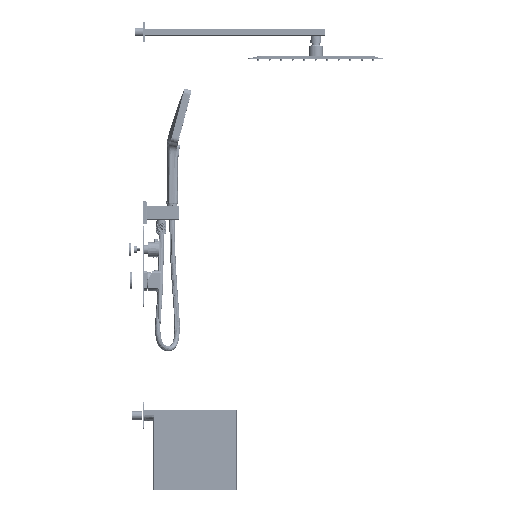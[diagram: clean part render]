
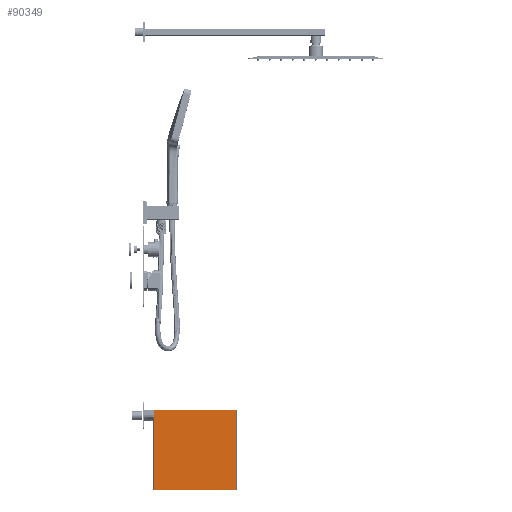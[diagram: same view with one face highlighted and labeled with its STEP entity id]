
A CAD part, top view. The second image highlights one B-rep face of the part: STEP entity #90349.
In plain terms, the highlighted planar face has unit normal (0, 0, 1) as drawn and (0, 0, -1) by its records, which use the part's own axes.
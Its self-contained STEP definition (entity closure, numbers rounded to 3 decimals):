
#90182=DIRECTION('',(-1.,0.,0.));
#90183=VECTOR('',#90182,182.371);
#90184=CARTESIAN_POINT('',(19.5,0.,-22.));
#90185=LINE('',#90184,#90183);
#90204=DIRECTION('',(0.,-1.,0.));
#90205=VECTOR('',#90204,177.);
#90206=CARTESIAN_POINT('',(19.5,177.,-22.));
#90207=LINE('',#90206,#90205);
#90212=DIRECTION('',(0.,1.,0.));
#90213=VECTOR('',#90212,177.);
#90214=CARTESIAN_POINT('',(-162.871,0.,-22.));
#90215=LINE('',#90214,#90213);
#90220=DIRECTION('',(-1.,0.,0.));
#90221=VECTOR('',#90220,182.371);
#90222=CARTESIAN_POINT('',(19.5,177.,-22.));
#90223=LINE('',#90222,#90221);
#90245=CARTESIAN_POINT('',(19.5,0.,-22.));
#90247=VERTEX_POINT('',#90245);
#90250=CARTESIAN_POINT('',(-162.871,0.,-22.));
#90251=VERTEX_POINT('',#90250);
#90258=CARTESIAN_POINT('',(19.5,177.,-22.));
#90260=VERTEX_POINT('',#90258);
#90264=CARTESIAN_POINT('',(-162.871,177.,-22.));
#90265=VERTEX_POINT('',#90264);
#90337=CARTESIAN_POINT('',(19.5,0.,-22.));
#90338=DIRECTION('',(0.,0.,-1.));
#90339=DIRECTION('',(-1.,0.,0.));
#90340=AXIS2_PLACEMENT_3D('',#90337,#90338,#90339);
#90341=PLANE('',#90340);
#90342=ORIENTED_EDGE('',*,*,#90277,.F.);
#90343=ORIENTED_EDGE('',*,*,#90301,.F.);
#90345=ORIENTED_EDGE('',*,*,#90344,.T.);
#90346=ORIENTED_EDGE('',*,*,#90327,.F.);
#90347=EDGE_LOOP('',(#90342,#90343,#90345,#90346));
#90348=FACE_OUTER_BOUND('',#90347,.F.);
#90277=EDGE_CURVE('',#90247,#90251,#90185,.T.);
#90301=EDGE_CURVE('',#90260,#90247,#90207,.T.);
#90327=EDGE_CURVE('',#90251,#90265,#90215,.T.);
#90344=EDGE_CURVE('',#90260,#90265,#90223,.T.);
#90349=ADVANCED_FACE('',(#90348),#90341,.T.);
